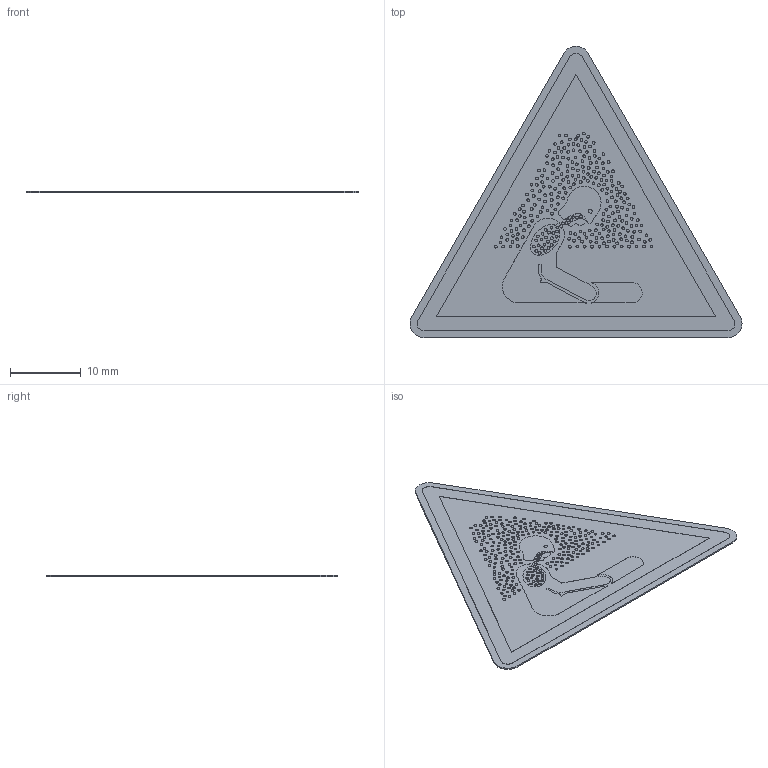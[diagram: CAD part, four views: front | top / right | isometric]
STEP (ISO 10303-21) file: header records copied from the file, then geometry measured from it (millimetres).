
FILE_DESCRIPTION (( 'STEP AP214' ), '1' );
FILE_NAME ('W041_Warnung vor Erstickungsgefahr.STEP', '2022-03-03T14:12:03', ( '' ), ( '' ), 'SwSTEP 2.0', 'SolidWorks 2021', '' );
FILE_SCHEMA (( 'AUTOMOTIVE_DESIGN' ));
Length unit declared in the file: millimetre
Products named in the file (1): W041_Warnung vor Erstickungsgefahr
Bounding box: 47.07 x 41.3 x 0.22 mm (x, y, z)
Volume: 221.4 mm3; surface area: 2186.7 mm2
Topology: 1 solids, 1 shells, 744 faces, 1347 edges, 898 vertices
Faces by surface type: plane 405, cylinder 339
Full cylindrical faces by diameter (mm): 0.384 x256, 0.4 x30
Entity records: 25127 total; most frequent: DIRECTION 3229, CARTESIAN_POINT 2704, ORIENTED_EDGE 2122, AXIS2_PLACEMENT_3D 1423, EDGE_LOOP 1323, EDGE_CURVE 1061, FACE_OUTER_BOUND 1030, VERTEX_POINT 898
